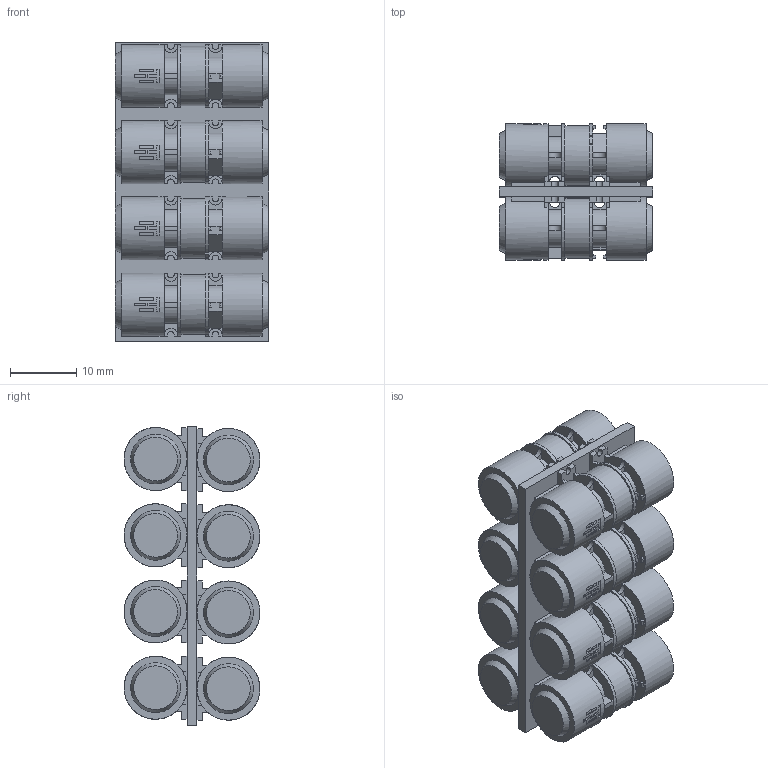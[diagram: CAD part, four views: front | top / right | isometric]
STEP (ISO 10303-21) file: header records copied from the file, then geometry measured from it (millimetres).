
FILE_DESCRIPTION(/* description */ (''),/* implementation_level */ '2;1');
FILE_NAME(/* name */ '8x drake (4x2).step',/* time_stamp */ '2023-06-07T13:42:59-04:00',/* author */ (''),/* organization */ (''),/* preprocessor_version */ 'ST-DEVELOPER v19.2',/* originating_system */ 'Autodesk Translation Framework v12.6.0.85',/* authorisation */ '');
FILE_SCHEMA (('AUTOMOTIVE_DESIGN { 1 0 10303 214 3 1 1 }'));
Length unit declared in the file: millimetre
Products named in the file (11): 8x drake (4x2); TacHammer - Drake Volume; Component1; TacHammer - Drake Volume_1; TacHammer - Drake Volume_2; TacHammer - Drake Volume_3; TacHammer - Drake Volume_4; TacHammer - Drake Volume_5; TacHammer - Drake Volume_6; TacHammer - Drake Volume_7; Volume_Env
Assembly tree (17 placements, depth 3):
  8x drake (4x2)
    TacHammer - Drake Volume
      Volume_Env
    Component1
    TacHammer - Drake Volume_1
      Volume_Env
    TacHammer - Drake Volume_2
      Volume_Env
    TacHammer - Drake Volume_3
      Volume_Env
    TacHammer - Drake Volume_4
      Volume_Env
    TacHammer - Drake Volume_5
      Volume_Env
    TacHammer - Drake Volume_6
      Volume_Env
    TacHammer - Drake Volume_7
      Volume_Env
Bounding box: 23.2 x 20.5 x 45 mm (x, y, z)
Volume: 12925.2 mm3; surface area: 10937.1 mm2
Topology: 9 solids, 9 shells, 1414 faces, 3876 edges, 2504 vertices
Faces by surface type: plane 990, cylinder 392, cone 16, torus 16
Full cylindrical faces by diameter (mm): 9 x8, 9.5 x16
Entity records: 6078 total; most frequent: DIRECTION 1045, CARTESIAN_POINT 1044, ORIENTED_EDGE 990, EDGE_CURVE 495, LINE 363, VECTOR 363, AXIS2_PLACEMENT_3D 341, VERTEX_POINT 320
